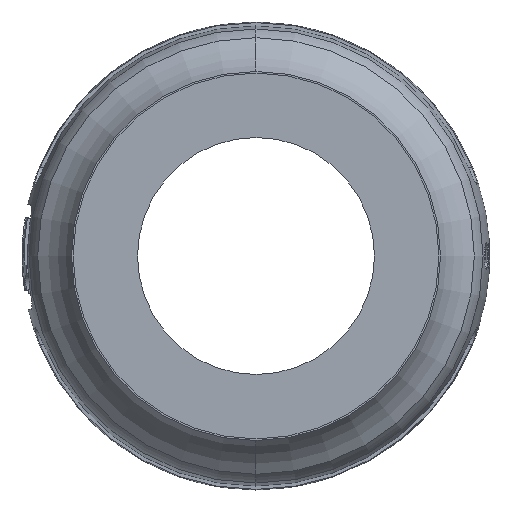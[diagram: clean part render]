
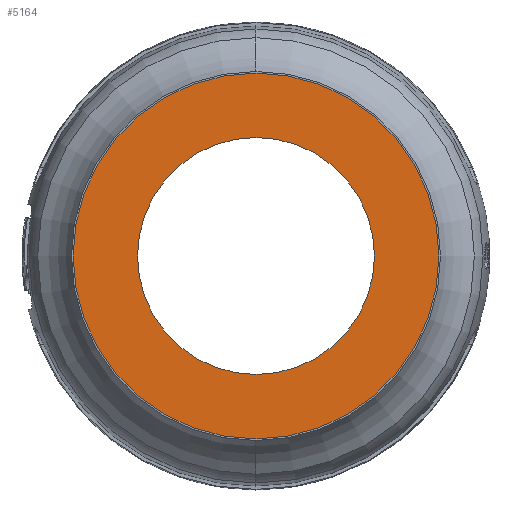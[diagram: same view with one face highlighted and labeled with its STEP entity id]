
A CAD part, left-side view. The second image highlights one B-rep face of the part: STEP entity #5164.
In plain terms, the highlighted planar face has unit normal (-1, 0, 0).
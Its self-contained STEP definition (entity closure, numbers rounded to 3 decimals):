
#510 = AXIS2_PLACEMENT_3D ( 'NONE', #7115, #20352, #18544 ) ;
#1161 = FACE_OUTER_BOUND ( 'NONE', #10528, .T. ) ;
#1687 = EDGE_CURVE ( 'NONE', #5513, #13977, #4942, .T. ) ;
#2542 = PLANE ( 'NONE',  #4957 ) ;
#2906 = CIRCLE ( 'NONE', #10006, 100.339 ) ;
#3882 = EDGE_CURVE ( 'NONE', #12281, #19255, #2906, .T. ) ;
#4094 = CARTESIAN_POINT ( 'NONE',  ( 0., 0., 65. ) ) ;
#4942 = CIRCLE ( 'NONE', #510, 65. ) ;
#4957 = AXIS2_PLACEMENT_3D ( 'NONE', #18956, #20350, #17355 ) ;
#5164 = ADVANCED_FACE ( 'NONE', ( #1161, #15671 ), #2542, .F. ) ;
#5204 = ORIENTED_EDGE ( 'NONE', *, *, #8060, .T. ) ;
#5317 = CARTESIAN_POINT ( 'NONE',  ( 0., 0., 0. ) ) ;
#5419 = DIRECTION ( 'NONE',  ( 0., 0., 1. ) ) ;
#5513 = VERTEX_POINT ( 'NONE', #17440 ) ;
#6379 = CARTESIAN_POINT ( 'NONE',  ( 0., 0., 0. ) ) ;
#6406 = ORIENTED_EDGE ( 'NONE', *, *, #6466, .F. ) ;
#6466 = EDGE_CURVE ( 'NONE', #13977, #5513, #18477, .T. ) ;
#7115 = CARTESIAN_POINT ( 'NONE',  ( 0., 0., 0. ) ) ;
#8060 = EDGE_CURVE ( 'NONE', #19255, #12281, #14417, .T. ) ;
#9330 = DIRECTION ( 'NONE',  ( 0., 0., 1. ) ) ;
#10006 = AXIS2_PLACEMENT_3D ( 'NONE', #17244, #17456, #14581 ) ;
#10035 = AXIS2_PLACEMENT_3D ( 'NONE', #5317, #19920, #5419 ) ;
#10217 = EDGE_LOOP ( 'NONE', ( #6406, #20776 ) ) ;
#10528 = EDGE_LOOP ( 'NONE', ( #11758, #5204 ) ) ;
#11758 = ORIENTED_EDGE ( 'NONE', *, *, #3882, .T. ) ;
#12281 = VERTEX_POINT ( 'NONE', #14167 ) ;
#13977 = VERTEX_POINT ( 'NONE', #4094 ) ;
#14167 = CARTESIAN_POINT ( 'NONE',  ( 0., 0., 100.339 ) ) ;
#14417 = CIRCLE ( 'NONE', #17801, 100.339 ) ;
#14581 = DIRECTION ( 'NONE',  ( 0., 0., 1. ) ) ;
#15671 = FACE_BOUND ( 'NONE', #10217, .T. ) ;
#17244 = CARTESIAN_POINT ( 'NONE',  ( 0., 0., 0. ) ) ;
#17355 = DIRECTION ( 'NONE',  ( 0., 0., -1. ) ) ;
#17440 = CARTESIAN_POINT ( 'NONE',  ( 0., 0., -65. ) ) ;
#17456 = DIRECTION ( 'NONE',  ( -1., 0., 0. ) ) ;
#17475 = DIRECTION ( 'NONE',  ( -1., 0., 0. ) ) ;
#17801 = AXIS2_PLACEMENT_3D ( 'NONE', #6379, #17475, #9330 ) ;
#18477 = CIRCLE ( 'NONE', #10035, 65. ) ;
#18544 = DIRECTION ( 'NONE',  ( 0., 0., 1. ) ) ;
#18956 = CARTESIAN_POINT ( 'NONE',  ( 0., 81.75, 0. ) ) ;
#19255 = VERTEX_POINT ( 'NONE', #19638 ) ;
#19638 = CARTESIAN_POINT ( 'NONE',  ( 0., 0., -100.339 ) ) ;
#19920 = DIRECTION ( 'NONE',  ( -1., 0., 0. ) ) ;
#20350 = DIRECTION ( 'NONE',  ( 1., 0., 0. ) ) ;
#20352 = DIRECTION ( 'NONE',  ( -1., 0., 0. ) ) ;
#20776 = ORIENTED_EDGE ( 'NONE', *, *, #1687, .F. ) ;
